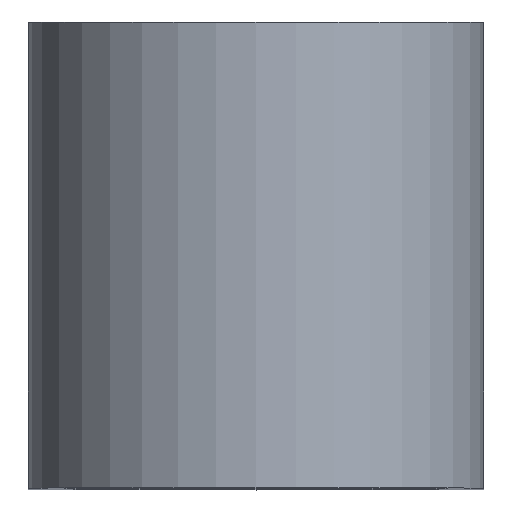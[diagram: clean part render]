
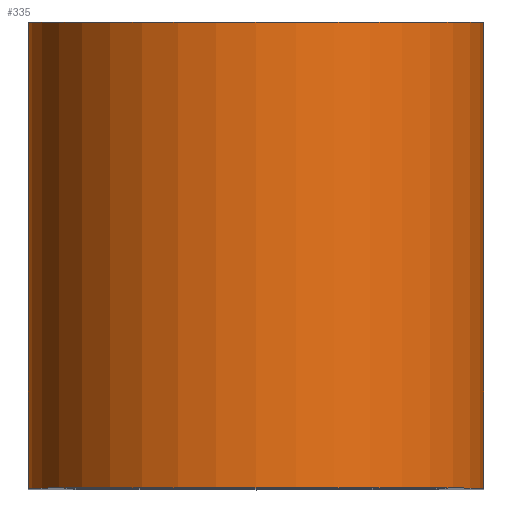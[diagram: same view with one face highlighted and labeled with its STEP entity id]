
A CAD part, top view. The second image highlights one B-rep face of the part: STEP entity #335.
In plain terms, the highlighted cylindrical face has radius 11 mm (diameter 22 mm), a partial arc.
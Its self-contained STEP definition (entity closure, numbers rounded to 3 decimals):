
#195=CARTESIAN_POINT('Axis2P3D Location',(-418.499,-658.83,260.5)) ;
#199=CARTESIAN_POINT('Vertex',(-429.499,-658.83,260.5)) ;
#201=CARTESIAN_POINT('Vertex',(-407.499,-658.83,260.5)) ;
#281=CARTESIAN_POINT('Vertex',(-407.499,-636.33,260.5)) ;
#295=CARTESIAN_POINT('Vertex',(-429.499,-636.33,260.5)) ;
#298=CARTESIAN_POINT('Axis2P3D Location',(-418.499,-636.33,260.5)) ;
#314=CARTESIAN_POINT('Axis2P3D Location',(-418.499,-647.83,260.5)) ;
#319=CARTESIAN_POINT('Line Origine',(-429.499,-647.83,260.5)) ;
#324=CARTESIAN_POINT('Line Origine',(-407.499,-647.83,260.5)) ;
#196=DIRECTION('Axis2P3D Direction',(0.,1.,0.)) ;
#299=DIRECTION('Axis2P3D Direction',(0.,1.,0.)) ;
#315=DIRECTION('Axis2P3D Direction',(0.,1.,0.)) ;
#316=DIRECTION('Axis2P3D XDirection',(-1.,0.,0.)) ;
#320=DIRECTION('Vector Direction',(0.,1.,0.)) ;
#325=DIRECTION('Vector Direction',(0.,1.,0.)) ;
#197=AXIS2_PLACEMENT_3D('Circle Axis2P3D',#195,#196,$) ;
#300=AXIS2_PLACEMENT_3D('Circle Axis2P3D',#298,#299,$) ;
#317=AXIS2_PLACEMENT_3D('Cylinder Axis2P3D',#314,#315,#316) ;
#330=ORIENTED_EDGE('',*,*,#302,.F.) ;
#331=ORIENTED_EDGE('',*,*,#323,.T.) ;
#332=ORIENTED_EDGE('',*,*,#203,.T.) ;
#333=ORIENTED_EDGE('',*,*,#328,.F.) ;
#321=VECTOR('Line Direction',#320,1.) ;
#326=VECTOR('Line Direction',#325,1.) ;
#335=ADVANCED_FACE('TY62.18_V1\X2\9AD85EA64F20611F566857AB5757\X0\A',(#334),#318,.T.) ;
#198=CIRCLE('generated circle',#197,11.) ;
#301=CIRCLE('generated circle',#300,11.) ;
#318=CYLINDRICAL_SURFACE('generated cylinder',#317,11.) ;
#203=EDGE_CURVE('',#200,#202,#198,.T.) ;
#302=EDGE_CURVE('',#296,#282,#301,.T.) ;
#323=EDGE_CURVE('',#296,#200,#322,.F.) ;
#328=EDGE_CURVE('',#282,#202,#327,.F.) ;
#329=EDGE_LOOP('',(#330,#331,#332,#333)) ;
#334=FACE_OUTER_BOUND('',#329,.T.) ;
#322=LINE('Line',#319,#321) ;
#327=LINE('Line',#324,#326) ;
#200=VERTEX_POINT('',#199) ;
#202=VERTEX_POINT('',#201) ;
#282=VERTEX_POINT('',#281) ;
#296=VERTEX_POINT('',#295) ;
